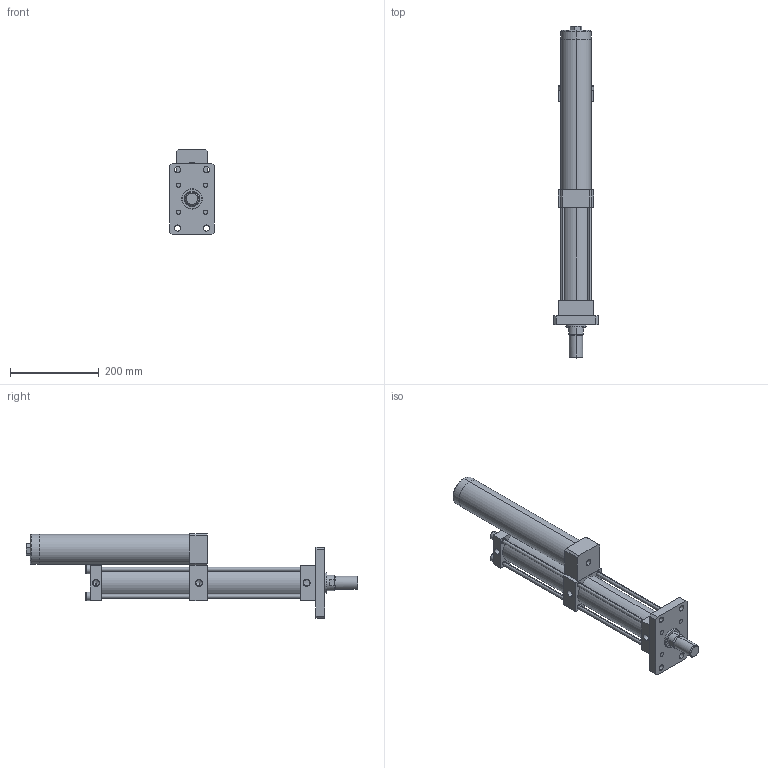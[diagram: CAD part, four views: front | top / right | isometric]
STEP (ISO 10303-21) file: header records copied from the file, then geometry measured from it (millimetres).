
FILE_DESCRIPTION (( 'STEP AP203' ), '1' );
FILE_NAME ('MPT-63-150-15-1T.STEP', '2016-03-17T09:40:41', ( 'WIN' ), ( '' ), 'SwSTEP 2.0', 'SolidWorks 2014', '' );
FILE_SCHEMA (( 'CONFIG_CONTROL_DESIGN' ));
Length unit declared in the file: millimetre
Products named in the file (1): MPT-63-150-15-1T
Bounding box: 100 x 750 x 191 mm (x, y, z)
Volume: 2667306.7 mm3; surface area: 496110.5 mm2
Topology: 14 solids, 14 shells, 251 faces, 573 edges, 360 vertices
Faces by surface type: plane 131, cylinder 84, cone 24, torus 12
Entity records: 7235 total; most frequent: DIRECTION 1304, CARTESIAN_POINT 1278, ORIENTED_EDGE 1134, EDGE_CURVE 567, AXIS2_PLACEMENT_3D 496, VERTEX_POINT 360, VECTOR 312, LINE 312
